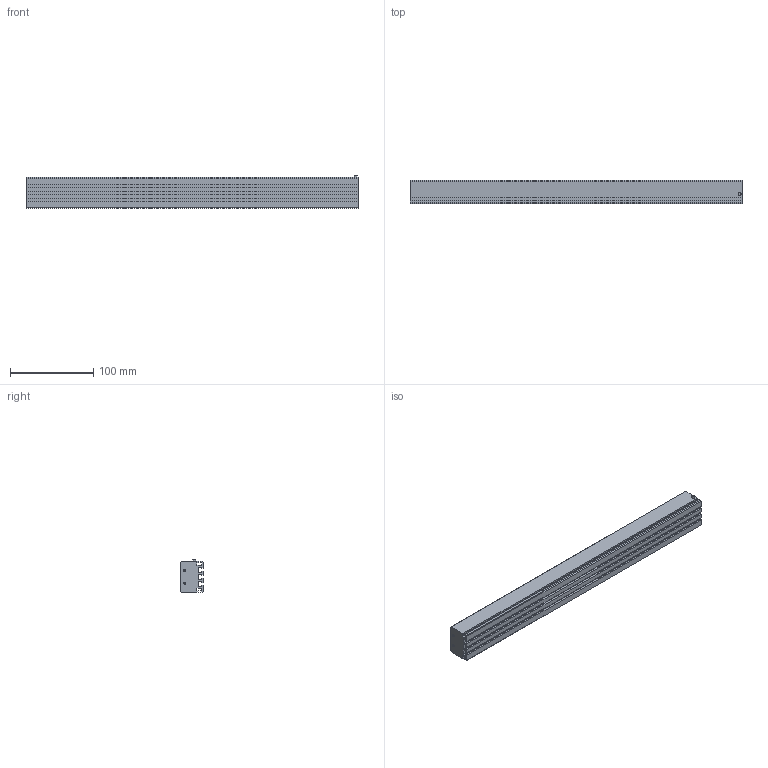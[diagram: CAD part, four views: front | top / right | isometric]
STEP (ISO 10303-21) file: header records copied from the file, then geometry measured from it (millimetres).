
FILE_DESCRIPTION (( 'STEP AP203' ), '1' );
FILE_NAME ('LRD-B6-400.STEP', '2022-08-25T05:36:47', ( 'TNT' ), ( '' ), 'SwSTEP 2.0', 'SolidWorks 2018', '' );
FILE_SCHEMA (( 'CONFIG_CONTROL_DESIGN' ));
Length unit declared in the file: millimetre
Products named in the file (1): LRD-B6-400
Bounding box: 400 x 27.7 x 39.1 mm (x, y, z)
Volume: 339949 mm3; surface area: 87897.8 mm2
Topology: 1 solids, 1 shells, 74 faces, 202 edges, 128 vertices
Faces by surface type: plane 56, cylinder 10, cone 8
Entity records: 2323 total; most frequent: CARTESIAN_POINT 397, ORIENTED_EDGE 388, DIRECTION 364, EDGE_CURVE 194, VECTOR 174, LINE 174, VERTEX_POINT 128, AXIS2_PLACEMENT_3D 95
